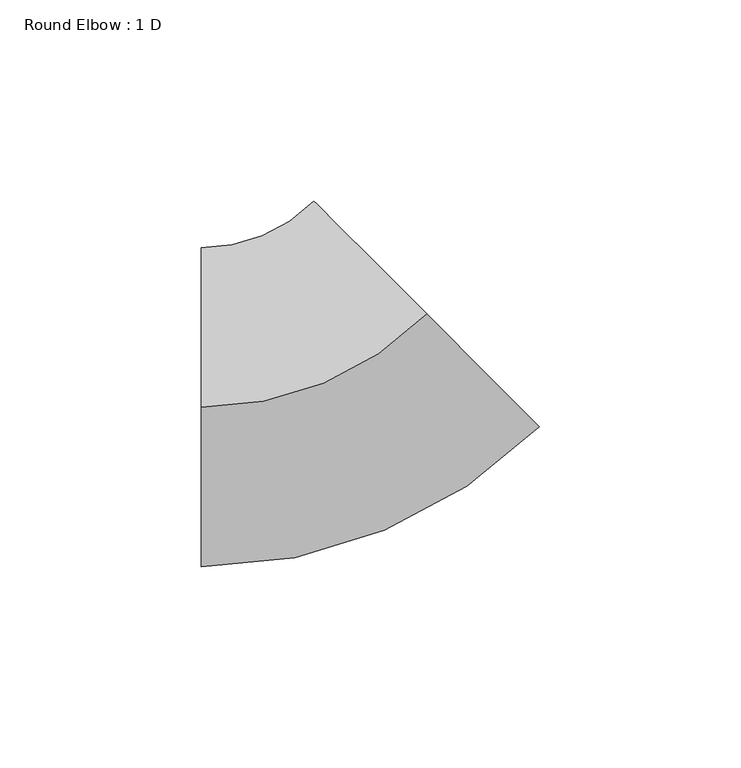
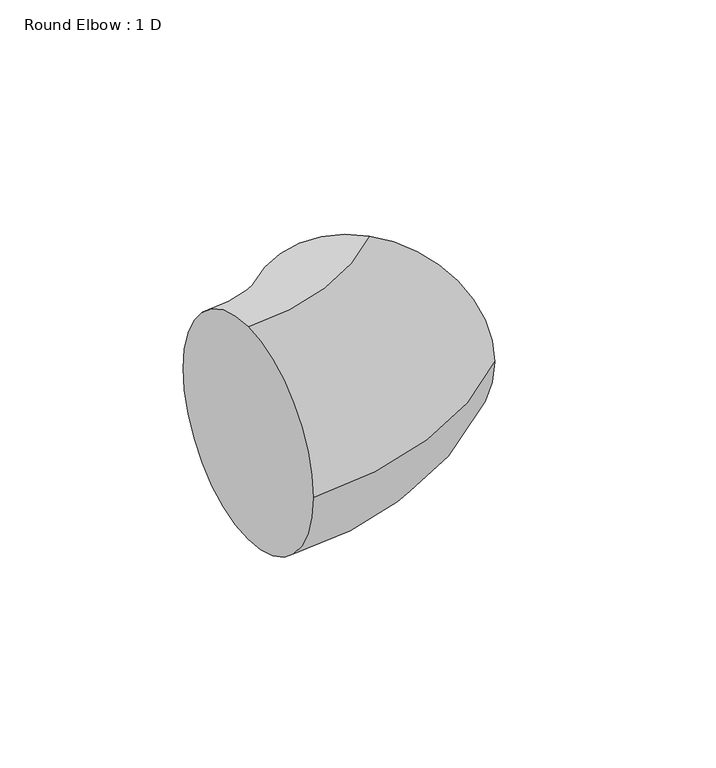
"""IFC4 building model written with IfcOpenShell, lengths in millimetres: duct fitting geometry, Round Elbow : 1 D."""

from ifc_helpers import new_model, si_unit, point, frame, origin, place, context, project, spatial, circle_curve, ellipse_curve, trimmed, source, transform, mapped, element, save
from ifc_brep_helpers import plane_surface, revolved_surface, advanced_brep


def round_elbow_1_d_aff85894(model_context):
    return source(origin(), model_context, "Body", "AdvancedBrep", [
        advanced_brep(
        [(-32.796006, 0.0, 39.5882812), (-32.796006, 39.5882812, 0.0), (-32.796006, 0.0, -39.5882813), (-32.796006, -39.5882813, 0.0), (23.1902782, 23.1902782, 39.5882812), (51.1834204, -4.8028639, 0.0), (23.1902782, 23.1902782, -39.5882813), (-4.8028639, 51.1834204, 0.0)],
        [
            (0, 1, circle_curve(frame((-32.796006, 0.0, 0.0), z_axis=(-1.0, 0.0, 0.0), x_axis=(0.0, 1.0, 0.0)), 39.5882812)),
            (1, 2, circle_curve(frame((-32.796006, 0.0, 0.0), z_axis=(-1.0, 0.0, 0.0), x_axis=(0.0, 1.0, 0.0)), 39.5882812)),
            (2, 3, circle_curve(frame((-32.796006, 0.0, 0.0), z_axis=(-1.0, 0.0, 0.0), x_axis=(0.0, 1.0, 0.0)), 39.5882813)),
            (3, 0, circle_curve(frame((-32.796006, 0.0, 0.0), z_axis=(-1.0, 0.0, 0.0), x_axis=(0.0, 1.0, 0.0)), 39.5882812)),
            (4, 5, circle_curve(frame((23.1902782, 23.1902782, 0.0), z_axis=(0.707106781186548, 0.707106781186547, 0.0), x_axis=(-0.707106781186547, 0.707106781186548, 0.0)), 39.5882812)),
            (5, 6, circle_curve(frame((23.1902782, 23.1902782, 0.0), z_axis=(0.707106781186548, 0.707106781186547, 0.0), x_axis=(-0.707106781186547, 0.707106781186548, 0.0)), 39.5882813)),
            (6, 7, circle_curve(frame((23.1902782, 23.1902782, 0.0), z_axis=(0.707106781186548, 0.707106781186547, 0.0), x_axis=(-0.707106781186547, 0.707106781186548, 0.0)), 39.5882812)),
            (7, 4, circle_curve(frame((23.1902782, 23.1902782, 0.0), z_axis=(0.707106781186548, 0.707106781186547, 0.0), x_axis=(-0.707106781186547, 0.707106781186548, 0.0)), 39.5882812)),
            (7, 1, circle_curve(frame((-32.796006, 79.1765625, 0.0), z_axis=(0.0, 0.0, -1.0), x_axis=(0.0, -1.0, 0.0)), 39.5882813)),
            (0, 4, circle_curve(frame((-32.796006, 79.1765625, 39.5882812), z_axis=(0.0, 0.0, 1.0), x_axis=(0.0, -1.0, 0.0)), 79.1765625)),
            (6, 2, circle_curve(frame((-32.796006, 79.1765625, -39.5882813), z_axis=(0.0, 0.0, -1.0), x_axis=(0.0, -1.0, 0.0)), 79.1765625)),
            (5, 3, circle_curve(frame((-32.796006, 79.1765625, 0.0), z_axis=(0.0, 0.0, -1.0), x_axis=(0.0, -1.0, 0.0)), 118.7648438)),
        ],
        [
            plane_surface(frame((-32.796006, 0.0, 0.0), z_axis=(-1.0, 0.0, 0.0), x_axis=(0.0, 0.0, 1.0))),
            plane_surface(frame((23.1902782, 23.1902782, 0.0), z_axis=(0.707106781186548, 0.7071067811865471, 0.0), x_axis=(0.0, 0.0, 1.0))),
            revolved_surface(trimmed(ellipse_curve(frame((-32.796006, 0.0, 0.0), z_axis=(-1.0, 0.0, 0.0), x_axis=(0.0, 1.0, 0.0)), 39.5882812, 39.5882812), [point((-32.796006, 0.0, 39.5882812))], [point((-32.796006, 39.5882812, 0.0))], True, "CARTESIAN"), (-32.796006, 79.1765625, 0.0), (0.0, 0.0, 1.0)),
            revolved_surface(trimmed(ellipse_curve(frame((-32.796006, 0.0, 0.0), z_axis=(-1.0, 0.0, 0.0), x_axis=(0.0, 1.0, 0.0)), 39.5882812, 39.5882812), [point((-32.796006, 39.5882812, 0.0))], [point((-32.796006, 0.0, -39.5882813))], True, "CARTESIAN"), (-32.796006, 79.1765625, 0.0), (0.0, 0.0, 1.0)),
            revolved_surface(trimmed(ellipse_curve(frame((-32.796006, 0.0, 0.0), z_axis=(-1.0, 0.0, 0.0), x_axis=(0.0, 1.0, 0.0)), 39.5882813, 39.5882813), [point((-32.796006, 0.0, -39.5882813))], [point((-32.796006, -39.5882813, 0.0))], True, "CARTESIAN"), (-32.796006, 79.1765625, 0.0), (0.0, 0.0, 1.0)),
            revolved_surface(trimmed(ellipse_curve(frame((-32.796006, 0.0, 0.0), z_axis=(-1.0, 0.0, 0.0), x_axis=(0.0, 1.0, 0.0)), 39.5882812, 39.5882812), [point((-32.796006, -39.5882813, 0.0))], [point((-32.796006, 0.0, 39.5882812))], True, "CARTESIAN"), (-32.796006, 79.1765625, 0.0), (0.0, 0.0, 1.0)),
        ],
        [
            (0, [[1, 2, 3, 4]]),
            (1, [[5, 6, 7, 8]]),
            (2, [[9, -1, 10, -8]]),
            (3, [[11, -2, -9, -7]]),
            (4, [[12, -3, -11, -6]]),
            (5, [[-10, -4, -12, -5]]),
        ],
    ),
    ])


if __name__ == "__main__":
    model = new_model("IFC4")
    model_context = context("Model", 3, world=origin())
    ifc_project = project(units=[si_unit("LENGTHUNIT", "METRE", prefix="MILLI")], contexts=[model_context])
    site = spatial("IfcSite", under=ifc_project)
    building = spatial("IfcBuilding", under=site)
    placement = place(None, origin())
    round_elbow_1_d_shape = round_elbow_1_d_aff85894(model_context)
    element("IfcDuctFitting", 1, ObjectType="Round Elbow : 1 D", at=placement, inside=building, context=model_context, shape_type="MappedRepresentation", body=[
        mapped(round_elbow_1_d_shape, transform((0.0, 0.0, 0.0), x_axis=(1.0, 0.0, 0.0), y_axis=(0.0, 1.0, 0.0), z_axis=(0.0, 0.0, 1.0))),
    ])
    save(model, "model.ifc")
